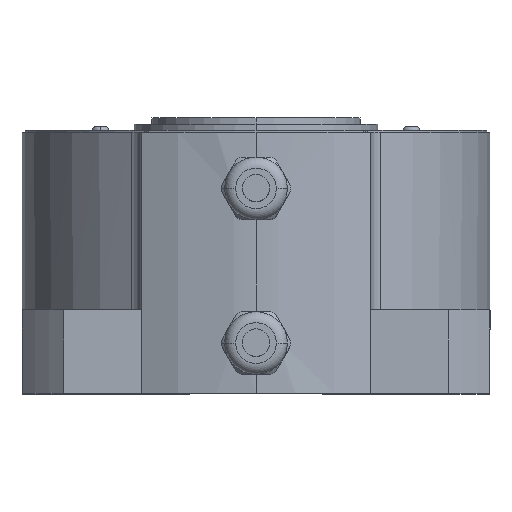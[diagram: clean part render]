
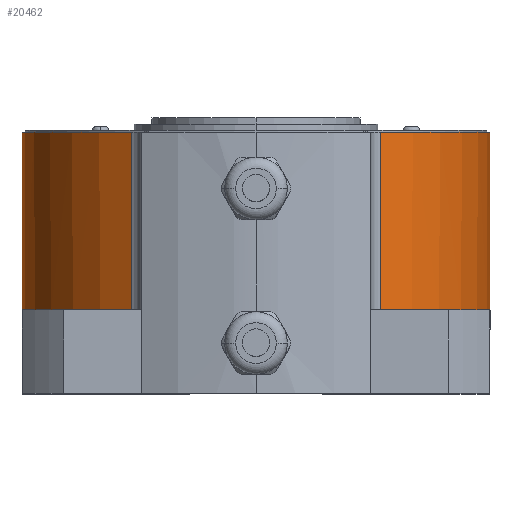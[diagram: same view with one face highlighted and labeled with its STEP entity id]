
A CAD part, top view. The second image highlights one B-rep face of the part: STEP entity #20462.
In plain terms, the highlighted cylindrical face has radius 56 mm (diameter 112 mm), a partial arc.
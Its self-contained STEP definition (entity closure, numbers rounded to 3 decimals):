
#32 = CARTESIAN_POINT ( 'NONE',  ( 29.836, -42.5, 47.39 ) ) ;
#151 = EDGE_CURVE ( 'NONE', #7001, #13486, #2759, .T. ) ;
#319 = VERTEX_POINT ( 'NONE', #11442 ) ;
#491 = DIRECTION ( 'NONE',  ( 0., 1., 0. ) ) ;
#761 = ORIENTED_EDGE ( 'NONE', *, *, #151, .T. ) ;
#1803 = EDGE_CURVE ( 'NONE', #8704, #7001, #9119, .T. ) ;
#2092 = DIRECTION ( 'NONE',  ( 0., 0., 1. ) ) ;
#2327 = CARTESIAN_POINT ( 'NONE',  ( 0., -42.5, 0. ) ) ;
#2759 = CIRCLE ( 'NONE', #13067, 56. ) ;
#2920 = EDGE_CURVE ( 'NONE', #319, #14890, #4103, .T. ) ;
#3114 = AXIS2_PLACEMENT_3D ( 'NONE', #9025, #491, #7364 ) ;
#3381 = CARTESIAN_POINT ( 'NONE',  ( 56., -42.5, 0. ) ) ;
#3483 = DIRECTION ( 'NONE',  ( 0., 0., 1. ) ) ;
#4103 = CIRCLE ( 'NONE', #21516, 56. ) ;
#4206 = DIRECTION ( 'NONE',  ( 0., 1., 0. ) ) ;
#4332 = CIRCLE ( 'NONE', #13574, 56. ) ;
#4962 = LINE ( 'NONE', #20207, #8173 ) ;
#5346 = ORIENTED_EDGE ( 'NONE', *, *, #2920, .T. ) ;
#6072 = EDGE_CURVE ( 'NONE', #13486, #319, #12445, .T. ) ;
#6228 = VERTEX_POINT ( 'NONE', #9430 ) ;
#6723 = EDGE_CURVE ( 'NONE', #6228, #8704, #4962, .T. ) ;
#6918 = CARTESIAN_POINT ( 'NONE',  ( 0., 0., 0. ) ) ;
#6972 = EDGE_CURVE ( 'NONE', #14890, #18443, #16628, .T. ) ;
#7001 = VERTEX_POINT ( 'NONE', #3381 ) ;
#7364 = DIRECTION ( 'NONE',  ( 0., 0., 1. ) ) ;
#7914 = CARTESIAN_POINT ( 'NONE',  ( -29.836, 0., 47.39 ) ) ;
#8173 = VECTOR ( 'NONE', #21870, 1000. ) ;
#8195 = EDGE_CURVE ( 'NONE', #6228, #18443, #4332, .T. ) ;
#8216 = ORIENTED_EDGE ( 'NONE', *, *, #6723, .T. ) ;
#8704 = VERTEX_POINT ( 'NONE', #32 ) ;
#8882 = DIRECTION ( 'NONE',  ( 0., 0., 1. ) ) ;
#9025 = CARTESIAN_POINT ( 'NONE',  ( 0., -42.5, 0. ) ) ;
#9103 = ORIENTED_EDGE ( 'NONE', *, *, #8195, .F. ) ;
#9119 = CIRCLE ( 'NONE', #3114, 56. ) ;
#9323 = DIRECTION ( 'NONE',  ( 0., 1., 0. ) ) ;
#9430 = CARTESIAN_POINT ( 'NONE',  ( 29.836, 0., 47.39 ) ) ;
#10155 = EDGE_LOOP ( 'NONE', ( #9103, #8216, #14530, #761, #11660, #5346, #14169 ) ) ;
#10559 = CARTESIAN_POINT ( 'NONE',  ( 0., -42.5, 0. ) ) ;
#11442 = CARTESIAN_POINT ( 'NONE',  ( -56., -42.5, 0. ) ) ;
#11481 = CARTESIAN_POINT ( 'NONE',  ( -29.836, -42.5, 47.39 ) ) ;
#11660 = ORIENTED_EDGE ( 'NONE', *, *, #6072, .T. ) ;
#11722 = DIRECTION ( 'NONE',  ( 0., 1., 0. ) ) ;
#11822 = DIRECTION ( 'NONE',  ( 0., 1., 0. ) ) ;
#12445 = CIRCLE ( 'NONE', #13860, 56. ) ;
#13067 = AXIS2_PLACEMENT_3D ( 'NONE', #10559, #15386, #3483 ) ;
#13486 = VERTEX_POINT ( 'NONE', #14847 ) ;
#13574 = AXIS2_PLACEMENT_3D ( 'NONE', #6918, #11822, #16632 ) ;
#13860 = AXIS2_PLACEMENT_3D ( 'NONE', #2327, #9323, #8882 ) ;
#13888 = FACE_OUTER_BOUND ( 'NONE', #10155, .T. ) ;
#14169 = ORIENTED_EDGE ( 'NONE', *, *, #6972, .T. ) ;
#14530 = ORIENTED_EDGE ( 'NONE', *, *, #1803, .T. ) ;
#14847 = CARTESIAN_POINT ( 'NONE',  ( 0., -42.5, -56. ) ) ;
#14890 = VERTEX_POINT ( 'NONE', #16603 ) ;
#15386 = DIRECTION ( 'NONE',  ( 0., 1., 0. ) ) ;
#16603 = CARTESIAN_POINT ( 'NONE',  ( -29.836, -42.5, 47.39 ) ) ;
#16628 = LINE ( 'NONE', #11481, #21708 ) ;
#16632 = DIRECTION ( 'NONE',  ( 0., 0., 1. ) ) ;
#16650 = DIRECTION ( 'NONE',  ( 0., 0., 1. ) ) ;
#16846 = DIRECTION ( 'NONE',  ( 0., 1., 0. ) ) ;
#17551 = CARTESIAN_POINT ( 'NONE',  ( 0., -42.5, 0. ) ) ;
#18294 = CARTESIAN_POINT ( 'NONE',  ( 0., -42.5, 0. ) ) ;
#18443 = VERTEX_POINT ( 'NONE', #7914 ) ;
#19437 = CYLINDRICAL_SURFACE ( 'NONE', #19952, 56. ) ;
#19952 = AXIS2_PLACEMENT_3D ( 'NONE', #17551, #4206, #2092 ) ;
#20207 = CARTESIAN_POINT ( 'NONE',  ( 29.836, -42.5, 47.39 ) ) ;
#20462 = ADVANCED_FACE ( 'NONE', ( #13888 ), #19437, .T. ) ;
#21516 = AXIS2_PLACEMENT_3D ( 'NONE', #18294, #11722, #16650 ) ;
#21708 = VECTOR ( 'NONE', #16846, 1000. ) ;
#21870 = DIRECTION ( 'NONE',  ( 0., -1., 0. ) ) ;
